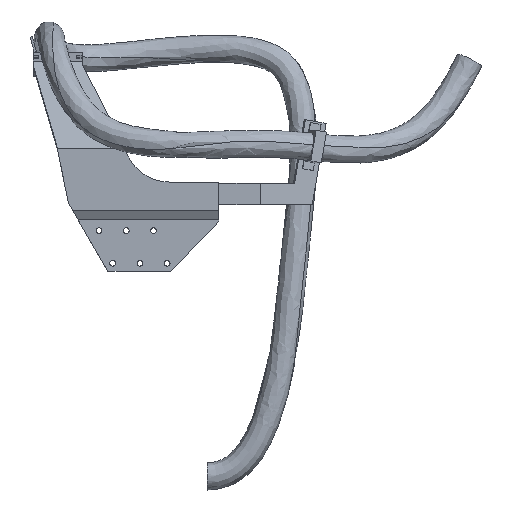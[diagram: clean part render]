
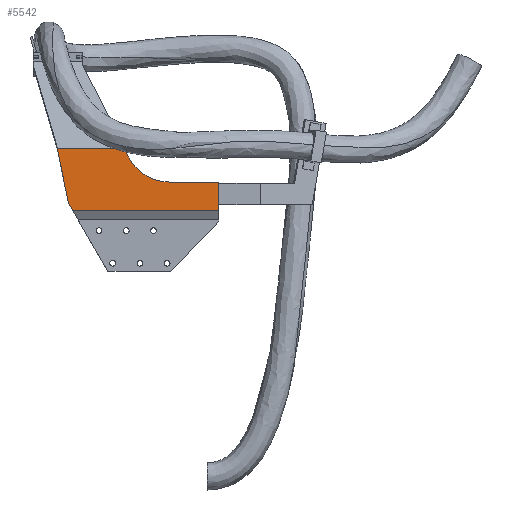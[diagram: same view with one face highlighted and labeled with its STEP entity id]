
A CAD part, front view. The second image highlights one B-rep face of the part: STEP entity #5542.
In plain terms, the highlighted planar face has unit normal (0, -1, 0).
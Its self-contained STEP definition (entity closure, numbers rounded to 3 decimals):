
#1 = VERTEX_POINT ( 'NONE', #1091 ) ;
#361 = CARTESIAN_POINT ( 'NONE',  ( -404.364, -477., 633.574 ) ) ;
#674 = VERTEX_POINT ( 'NONE', #1052 ) ;
#1025 = CARTESIAN_POINT ( 'NONE',  ( -300.821, -477., 735.028 ) ) ;
#1032 = CARTESIAN_POINT ( 'NONE',  ( -128.499, -477., 672.511 ) ) ;
#1052 = CARTESIAN_POINT ( 'NONE',  ( -397.64, -477., 621.928 ) ) ;
#1091 = CARTESIAN_POINT ( 'NONE',  ( -297.688, -477., 725.146 ) ) ;
#1807 = CARTESIAN_POINT ( 'NONE',  ( -300.218, -477., 732.975 ) ) ;
#1809 = CARTESIAN_POINT ( 'NONE',  ( -298.914, -477., 728.901 ) ) ;
#1813 = CARTESIAN_POINT ( 'NONE',  ( -300.821, -477., 735.028 ) ) ;
#1814 = CARTESIAN_POINT ( 'NONE',  ( -298.583, -477., 727.884 ) ) ;
#1815 = CARTESIAN_POINT ( 'NONE',  ( -299.578, -477., 730.934 ) ) ;
#1816 = CARTESIAN_POINT ( 'NONE',  ( -298.914, -477., 728.901 ) ) ;
#1817 = DIRECTION ( 'NONE',  ( -1., 0., 0. ) ) ;
#1818 = CARTESIAN_POINT ( 'NONE',  ( -298.251, -477., 726.868 ) ) ;
#1819 = CARTESIAN_POINT ( 'NONE',  ( -297.919, -477., 725.851 ) ) ;
#1820 = CARTESIAN_POINT ( 'NONE',  ( -297.842, -477., 725.616 ) ) ;
#1821 = CARTESIAN_POINT ( 'NONE',  ( -297.765, -477., 725.381 ) ) ;
#1822 = CARTESIAN_POINT ( 'NONE',  ( -297.688, -477., 725.146 ) ) ;
#1825 = CARTESIAN_POINT ( 'NONE',  ( -219.091, -477., 672.511 ) ) ;
#1826 = CARTESIAN_POINT ( 'NONE',  ( -219.091, -477., 757.511 ) ) ;
#1827 = DIRECTION ( 'NONE',  ( 0., 1., 0. ) ) ;
#1828 = DIRECTION ( 'NONE',  ( 1., 0., 0. ) ) ;
#1829 = CARTESIAN_POINT ( 'NONE',  ( -128.499, -477., 669.93 ) ) ;
#1830 = DIRECTION ( 'NONE',  ( 0., 0., 1. ) ) ;
#1831 = CARTESIAN_POINT ( 'NONE',  ( -219.091, -477., 620.32 ) ) ;
#1832 = CARTESIAN_POINT ( 'NONE',  ( -219.091, -477., 672.511 ) ) ;
#1833 = DIRECTION ( 'NONE',  ( -1., 0., 0. ) ) ;
#1871 = CARTESIAN_POINT ( 'NONE',  ( -397.64, -477., 621.928 ) ) ;
#1872 = CARTESIAN_POINT ( 'NONE',  ( -397.538, -477., 621.751 ) ) ;
#1873 = CARTESIAN_POINT ( 'NONE',  ( -397.404, -477., 621.519 ) ) ;
#1874 = CARTESIAN_POINT ( 'NONE',  ( -397.282, -477., 621.304 ) ) ;
#1875 = CARTESIAN_POINT ( 'NONE',  ( -397.23, -477., 621.212 ) ) ;
#1876 = CARTESIAN_POINT ( 'NONE',  ( -397.206, -477., 621.169 ) ) ;
#1877 = CARTESIAN_POINT ( 'NONE',  ( -397.194, -477., 621.148 ) ) ;
#1878 = CARTESIAN_POINT ( 'NONE',  ( -397.189, -477., 621.14 ) ) ;
#1879 = CARTESIAN_POINT ( 'NONE',  ( -397.186, -477., 621.134 ) ) ;
#1880 = CARTESIAN_POINT ( 'NONE',  ( -397.185, -477., 621.133 ) ) ;
#1881 = CARTESIAN_POINT ( 'NONE',  ( -397.018, -477., 620.835 ) ) ;
#1882 = CARTESIAN_POINT ( 'NONE',  ( -396.871, -477., 620.565 ) ) ;
#1883 = CARTESIAN_POINT ( 'NONE',  ( -396.744, -477., 620.32 ) ) ;
#1884 = CARTESIAN_POINT ( 'NONE',  ( -410.595, -477., 644.366 ) ) ;
#1885 = DIRECTION ( 'NONE',  ( -0.5, 0., 0.866 ) ) ;
#1886 = CARTESIAN_POINT ( 'NONE',  ( -378.499, -477., 508.511 ) ) ;
#1887 = DIRECTION ( 'NONE',  ( 0.203, 0., -0.979 ) ) ;
#1888 = CARTESIAN_POINT ( 'NONE',  ( -423.263, -477., 725.071 ) ) ;
#1889 = DIRECTION ( 'NONE',  ( -0.145, 0., 0.989 ) ) ;
#1890 = CARTESIAN_POINT ( 'NONE',  ( -219.091, -477., 735.028 ) ) ;
#1891 = DIRECTION ( 'NONE',  ( 1., 0., 0. ) ) ;
#2402 = EDGE_LOOP ( 'NONE', ( #4475, #4476, #4477, #4478, #4479, #4480, #4481, #4482, #4483, #4484, #4485 ) ) ;
#2742 = B_SPLINE_CURVE_WITH_KNOTS ( 'NONE', 3,
 ( #1871, #1872, #1873, #1874, #1875, #1876, #1877, #1878, #1879, #1880, #1881, #1882, #1883 ),
 .UNSPECIFIED., .F., .F.,
 ( 4, 1, 1, 1, 1, 1, 2, 2, 4 ),
 ( 0., 0.25, 0.375, 0.438, 0.469, 0.484, 0.492, 0.5, 1. ),
 .UNSPECIFIED. ) ;
#2750 = B_SPLINE_CURVE_WITH_KNOTS ( 'NONE', 3,
 ( #1809, #1814, #1818, #1819, #1820, #1821, #1822 ),
 .UNSPECIFIED., .F., .F.,
 ( 4, 3, 4 ),
 ( 0.019, 0.022, 0.023 ),
 .UNSPECIFIED. ) ;
#2751 = B_SPLINE_CURVE_WITH_KNOTS ( 'NONE', 3,
 ( #1813, #1807, #1815, #1816 ),
 .UNSPECIFIED., .F., .F.,
 ( 4, 4 ),
 ( 0., 1. ),
 .UNSPECIFIED. ) ;
#2774 = CARTESIAN_POINT ( 'NONE',  ( -424.719, -477., 735.028 ) ) ;
#2777 = CARTESIAN_POINT ( 'NONE',  ( -396.744, -477., 620.32 ) ) ;
#2789 = CARTESIAN_POINT ( 'NONE',  ( -298.914, -477., 728.901 ) ) ;
#2791 = CARTESIAN_POINT ( 'NONE',  ( -423.204, -477., 724.67 ) ) ;
#2829 = VERTEX_POINT ( 'NONE', #1032 ) ;
#2834 = VERTEX_POINT ( 'NONE', #1025 ) ;
#3396 = CIRCLE ( 'NONE', #4058, 85. ) ;
#3398 = LINE ( 'NONE', #1890, #3413 ) ;
#3400 = LINE ( 'NONE', #1829, #3404 ) ;
#3401 = LINE ( 'NONE', #1825, #3402 ) ;
#3402 = VECTOR ( 'NONE', #1817, 1000. ) ;
#3403 = LINE ( 'NONE', #1831, #3406 ) ;
#3404 = VECTOR ( 'NONE', #1830, 1000. ) ;
#3405 = VECTOR ( 'NONE', #1889, 1000. ) ;
#3406 = VECTOR ( 'NONE', #1833, 1000. ) ;
#3408 = VECTOR ( 'NONE', #1887, 1000. ) ;
#3409 = LINE ( 'NONE', #1888, #3405 ) ;
#3410 = VECTOR ( 'NONE', #1885, 1000. ) ;
#3411 = LINE ( 'NONE', #1886, #3408 ) ;
#3412 = LINE ( 'NONE', #1884, #3410 ) ;
#3413 = VECTOR ( 'NONE', #1891, 1000. ) ;
#3660 = FACE_OUTER_BOUND ( 'NONE', #2402, .T. ) ;
#3776 = VERTEX_POINT ( 'NONE', #5656 ) ;
#4039 = EDGE_CURVE ( 'NONE', #2834, #5638, #2751, .T. ) ;
#4040 = EDGE_CURVE ( 'NONE', #5638, #1, #2750, .T. ) ;
#4041 = EDGE_CURVE ( 'NONE', #4651, #1, #3396, .T. ) ;
#4042 = EDGE_CURVE ( 'NONE', #2829, #4651, #3401, .T. ) ;
#4043 = EDGE_CURVE ( 'NONE', #3776, #2829, #3400, .T. ) ;
#4044 = EDGE_CURVE ( 'NONE', #3776, #5626, #3403, .T. ) ;
#4058 = AXIS2_PLACEMENT_3D ( 'NONE', #1826, #1827, #1828 ) ;
#4152 = AXIS2_PLACEMENT_3D ( 'NONE', #4731, #4742, #4743 ) ;
#4475 = ORIENTED_EDGE ( 'NONE', *, *, #5356, .F. ) ;
#4476 = ORIENTED_EDGE ( 'NONE', *, *, #5355, .F. ) ;
#4477 = ORIENTED_EDGE ( 'NONE', *, *, #5354, .T. ) ;
#4478 = ORIENTED_EDGE ( 'NONE', *, *, #5353, .F. ) ;
#4479 = ORIENTED_EDGE ( 'NONE', *, *, #5352, .T. ) ;
#4480 = ORIENTED_EDGE ( 'NONE', *, *, #4044, .F. ) ;
#4481 = ORIENTED_EDGE ( 'NONE', *, *, #4043, .T. ) ;
#4482 = ORIENTED_EDGE ( 'NONE', *, *, #4042, .T. ) ;
#4483 = ORIENTED_EDGE ( 'NONE', *, *, #4041, .T. ) ;
#4484 = ORIENTED_EDGE ( 'NONE', *, *, #4040, .F. ) ;
#4485 = ORIENTED_EDGE ( 'NONE', *, *, #4039, .F. ) ;
#4651 = VERTEX_POINT ( 'NONE', #1832 ) ;
#4731 = CARTESIAN_POINT ( 'NONE',  ( -219.091, -477., 754.93 ) ) ;
#4740 = PLANE ( 'NONE',  #4152 ) ;
#4742 = DIRECTION ( 'NONE',  ( 0., -1., 0. ) ) ;
#4743 = DIRECTION ( 'NONE',  ( 1., 0., 0. ) ) ;
#5352 = EDGE_CURVE ( 'NONE', #674, #5626, #2742, .T. ) ;
#5353 = EDGE_CURVE ( 'NONE', #674, #5606, #3412, .T. ) ;
#5354 = EDGE_CURVE ( 'NONE', #5640, #5606, #3411, .T. ) ;
#5355 = EDGE_CURVE ( 'NONE', #5640, #5623, #3409, .T. ) ;
#5356 = EDGE_CURVE ( 'NONE', #5623, #2834, #3398, .T. ) ;
#5542 = ADVANCED_FACE ( 'NONE', ( #3660 ), #4740, .T. ) ;
#5606 = VERTEX_POINT ( 'NONE', #361 ) ;
#5623 = VERTEX_POINT ( 'NONE', #2774 ) ;
#5626 = VERTEX_POINT ( 'NONE', #2777 ) ;
#5638 = VERTEX_POINT ( 'NONE', #2789 ) ;
#5640 = VERTEX_POINT ( 'NONE', #2791 ) ;
#5656 = CARTESIAN_POINT ( 'NONE',  ( -128.499, -477., 620.32 ) ) ;
